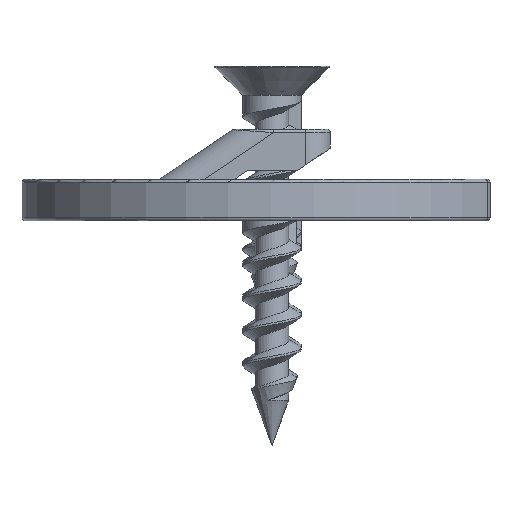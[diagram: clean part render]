
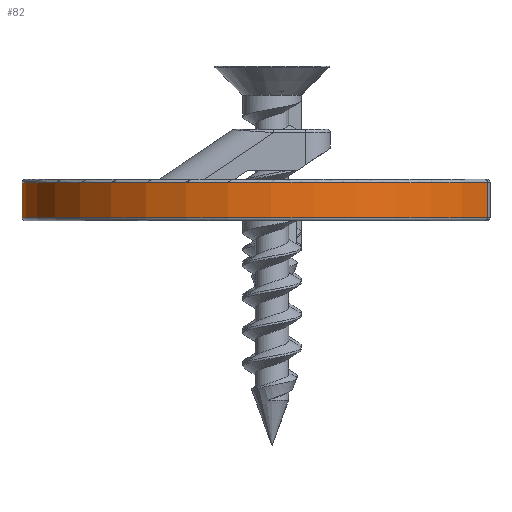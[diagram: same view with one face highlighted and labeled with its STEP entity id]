
A CAD part, front view. The second image highlights one B-rep face of the part: STEP entity #82.
In plain terms, the highlighted cylindrical face has radius 15 mm (diameter 30 mm), a partial arc.
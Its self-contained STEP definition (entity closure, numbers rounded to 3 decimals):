
#82 = ADVANCED_FACE( '', ( #272 ), #273, .T. );
#272 = FACE_OUTER_BOUND( '', #675, .T. );
#273 = CYLINDRICAL_SURFACE( '', #676, 15. );
#675 = EDGE_LOOP( '', ( #7023, #7024, #7025, #7026 ) );
#676 = AXIS2_PLACEMENT_3D( '', #7027, #7028, #7029 );
#7023 = ORIENTED_EDGE( '', *, *, #8680, .T. );
#7024 = ORIENTED_EDGE( '', *, *, #8681, .T. );
#7025 = ORIENTED_EDGE( '', *, *, #8682, .F. );
#7026 = ORIENTED_EDGE( '', *, *, #8683, .T. );
#7027 = CARTESIAN_POINT( '', ( 0., 0., 2.5 ) );
#7028 = DIRECTION( '', ( 0., 0., 1. ) );
#7029 = DIRECTION( '', ( -1., 0., 0. ) );
#8680 = EDGE_CURVE( '', #9165, #9166, #9167, .T. );
#8681 = EDGE_CURVE( '', #9166, #9168, #9169, .T. );
#8682 = EDGE_CURVE( '', #9170, #9168, #9171, .T. );
#8683 = EDGE_CURVE( '', #9170, #9165, #9172, .F. );
#9165 = VERTEX_POINT( '', #9968 );
#9166 = VERTEX_POINT( '', #9969 );
#9167 = LINE( '', #9970, #9971 );
#9168 = VERTEX_POINT( '', #9972 );
#9169 = CIRCLE( '', #9973, 15. );
#9170 = VERTEX_POINT( '', #9974 );
#9171 = LINE( '', #9975, #9976 );
#9172 = CIRCLE( '', #9977, 15. );
#9968 = CARTESIAN_POINT( '', ( 12.931, -7.601, 0.2 ) );
#9969 = CARTESIAN_POINT( '', ( 12.931, -7.601, 2.3 ) );
#9970 = CARTESIAN_POINT( '', ( 12.931, -7.601, -41.186 ) );
#9971 = VECTOR( '', #12163, 1000. );
#9972 = CARTESIAN_POINT( '', ( 12.931, 7.601, 2.3 ) );
#9973 = AXIS2_PLACEMENT_3D( '', #12164, #12165, #12166 );
#9974 = CARTESIAN_POINT( '', ( 12.931, 7.601, 0.2 ) );
#9975 = CARTESIAN_POINT( '', ( 12.931, 7.601, -41.186 ) );
#9976 = VECTOR( '', #12167, 1000. );
#9977 = AXIS2_PLACEMENT_3D( '', #12168, #12169, #12170 );
#12163 = DIRECTION( '', ( 0., 0., 1. ) );
#12164 = CARTESIAN_POINT( '', ( 0., 0., 2.3 ) );
#12165 = DIRECTION( '', ( 0., 0., -1. ) );
#12166 = DIRECTION( '', ( -1., 0., 0. ) );
#12167 = DIRECTION( '', ( 0., 0., 1. ) );
#12168 = CARTESIAN_POINT( '', ( 0., 0., 0.2 ) );
#12169 = DIRECTION( '', ( 0., 0., -1. ) );
#12170 = DIRECTION( '', ( -1., 0., 0. ) );
